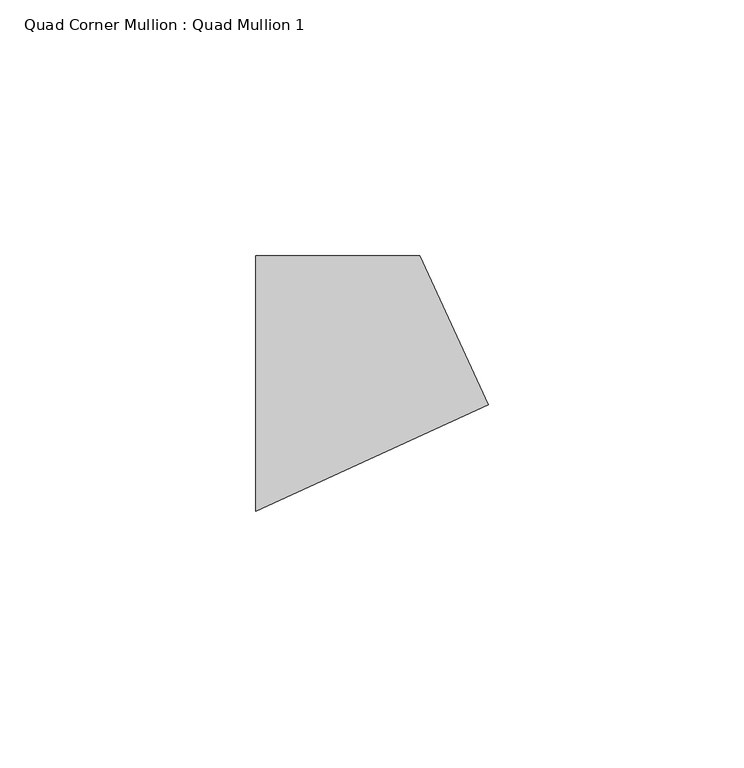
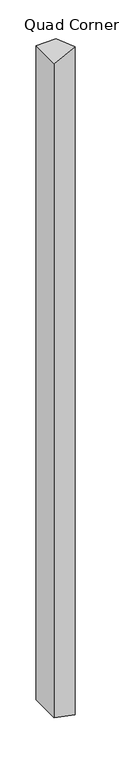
"""IFC4 building model written with IfcOpenShell, lengths in millimetres: member geometry, Quad Corner Mullion : Quad Mullion 1."""

from ifc_helpers import new_model, si_unit, origin, place, context, project, spatial, faceted_brep, source, transform, mapped, element, save


def quad_corner_mullion_quad_mullion_1_c3f7ad8e(model_context):
    return source(origin(), model_context, "Body", "Brep", [
        faceted_brep([(29.4125559, -4.1926582, 0.0), (16.0523154, 25.0, 0.0), (-16.0523154, 25.0, 0.0), (-16.0523154, -25.0, 0.0), (29.4125559, -4.1926582, -1126.2160833), (16.0523154, 25.0, -1119.2611823), (-16.0523154, 25.0, -1102.5485693), (-16.0523154, -25.0, -1102.5485693)], [[[0, 1, 2, 3]], [[1, 0, 4, 5]], [[2, 1, 5, 6]], [[3, 2, 6, 7]], [[0, 3, 7, 4]], [[4, 7, 6, 5]]]),
    ])


if __name__ == "__main__":
    model = new_model("IFC4")
    model_context = context("Model", 3, world=origin())
    ifc_project = project(units=[si_unit("LENGTHUNIT", "METRE", prefix="MILLI")], contexts=[model_context])
    site = spatial("IfcSite", under=ifc_project)
    building = spatial("IfcBuilding", under=site)
    placement = place(None, origin())
    quad_corner_mullion_quad_mullion_1_shape = quad_corner_mullion_quad_mullion_1_c3f7ad8e(model_context)
    element("IfcMember", 1, ObjectType="Quad Corner Mullion : Quad Mullion 1", at=placement, inside=building, context=model_context, shape_type="MappedRepresentation", body=[
        mapped(quad_corner_mullion_quad_mullion_1_shape, transform((0.0, 0.0, 0.0), x_axis=(1.0, 0.0, 0.0), y_axis=(0.0, 1.0, 0.0), z_axis=(0.0, 0.0, 1.0))),
    ])
    save(model, "model.ifc")
